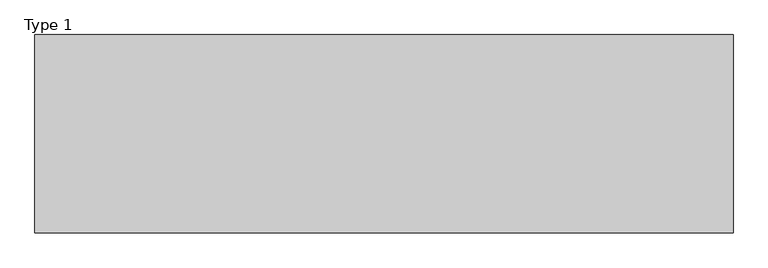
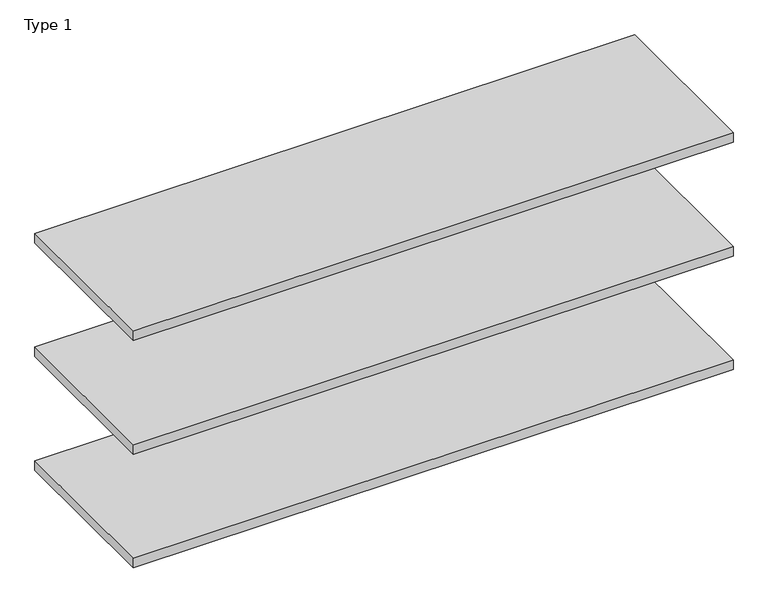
"""IFC4 building model written with IfcOpenShell, lengths in millimetres: proxy geometry, BIMHealth-Reception_Shelving-LOD2A-v1 : Type 1."""

from ifc_helpers import new_model, si_unit, frame, origin, place, context, project, spatial, polyline, outline, extrude, source, transform, mapped, element, save


def type_1_ea418fb4(model_context):
    return source(origin(), model_context, "Body", "SweptSolid", [
        extrude(outline(polyline([(-622.5, 50.0), (-622.5, 475.0), (872.5, 475.0), (872.5, 50.0), (-622.5, 50.0)])), frame((0.0, 0.0, 1650.0), z_axis=(0.0, 0.0, 1.0), x_axis=(1.0, 0.0, 0.0)), (0.0, 0.0, 1.0), 25.0),
        extrude(outline(polyline([(-622.5, 50.0), (-622.5, 475.0), (872.5, 475.0), (872.5, 50.0), (-622.5, 50.0)])), frame((0.0, 0.0, 1350.0), z_axis=(0.0, 0.0, 1.0), x_axis=(1.0, 0.0, 0.0)), (0.0, 0.0, 1.0), 25.0),
        extrude(outline(polyline([(-622.5, 50.0), (-622.5, 475.0), (872.5, 475.0), (872.5, 50.0), (-622.5, 50.0)])), frame((0.0, 0.0, 1050.0), z_axis=(0.0, 0.0, 1.0), x_axis=(1.0, 0.0, 0.0)), (0.0, 0.0, 1.0), 25.0),
    ])


if __name__ == "__main__":
    model = new_model("IFC4")
    model_context = context("Model", 3, world=origin())
    ifc_project = project(units=[si_unit("LENGTHUNIT", "METRE", prefix="MILLI")], contexts=[model_context])
    site = spatial("IfcSite", under=ifc_project)
    building = spatial("IfcBuilding", under=site)
    placement = place(None, origin())
    type_1_shape = type_1_ea418fb4(model_context)
    element("IfcBuildingElementProxy", 1, Name="BIMHealth-Reception_Shelving-LOD2A-v1 : Type 1", ObjectType="BIMHealth-Reception_Shelving-LOD2A-v1 : Type 1", at=placement, inside=building, context=model_context, shape_type="MappedRepresentation", body=[
        mapped(type_1_shape, transform((0.0, 0.0, 0.0), x_axis=(1.0, 0.0, 0.0), y_axis=(0.0, 1.0, 0.0), z_axis=(0.0, 0.0, 1.0))),
    ])
    save(model, "model.ifc")
